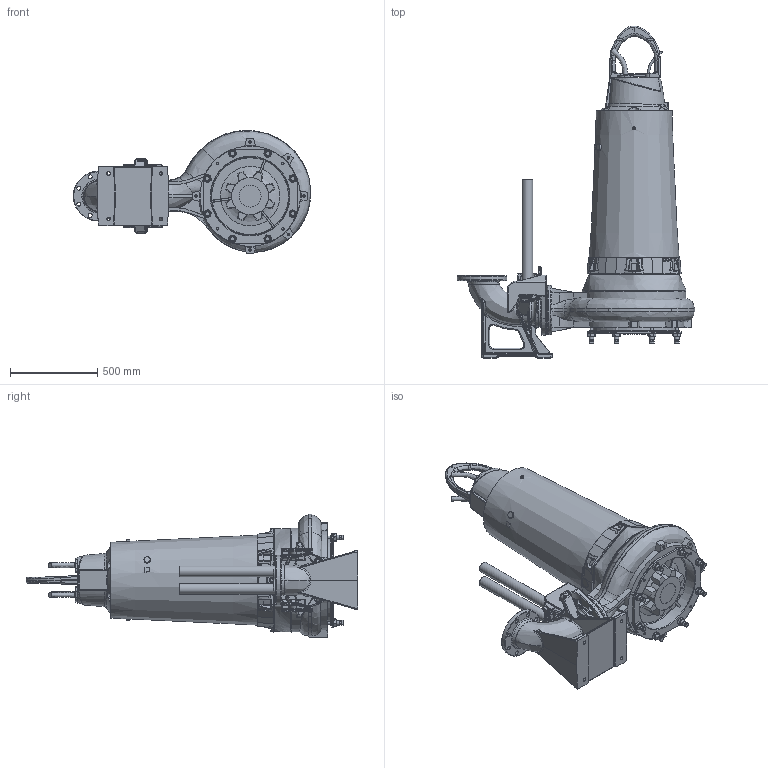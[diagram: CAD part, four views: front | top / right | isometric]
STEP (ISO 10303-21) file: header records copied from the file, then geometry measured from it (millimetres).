
FILE_DESCRIPTION (( 'STEP AP203' ), '1' );
FILE_NAME ('PE5_XFP151M-CB2_WET 2guide_A_NG2.STEP', '2020-03-26T11:26:38', ( '' ), ( '' ), 'SwSTEP 2.0', 'SolidWorks 2017', '' );
FILE_SCHEMA (( 'CONFIG_CONTROL_DESIGN' ));
Products named in the file (2): PE5_XFP151M-CB2_WET 2guide_A_NG2
Bounding box: 1362.03 x 1904.15 x 707.39 mm (x, y, z)
Volume: 309531107.7 mm3; surface area: 6179549.2 mm2
Topology: 4 solids, 24 shells, 3470 faces, 8571 edges, 5134 vertices
Faces by surface type: plane 1063, bspline 933, cylinder 799, cone 354, torus 235, sphere 86
Full cylindrical faces by diameter (mm): 8.4 x2, 8.5 x3, 10 x3, 10.2 x2, 11 x11, 11.5 x1, 14 x18, 16 x8, 17 x8, 17.5 x2, 19 x5, 20 x5, 22 x10, 23 x16, 27 x16, 27.5 x2, 35 x8, 36 x9, 40 x8, 56 x2, 60.3 x2, 125 x1, 212 x2, 285 x1, 483.6 x1, 484 x2, 492 x2, 500 x1, 589 x1, 595 x2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
Entity records: 219246 total; most frequent: CARTESIAN_POINT 147890, ORIENTED_EDGE 15988, DIRECTION 12844, EDGE_CURVE 7994, AXIS2_PLACEMENT_3D 5165, VERTEX_POINT 4944, EDGE_LOOP 3960, FACE_OUTER_BOUND 3664
